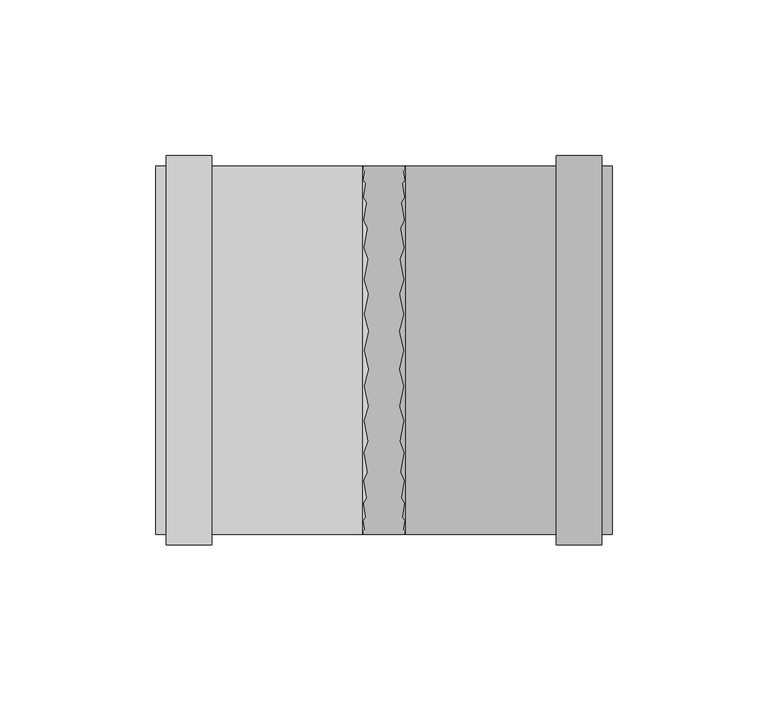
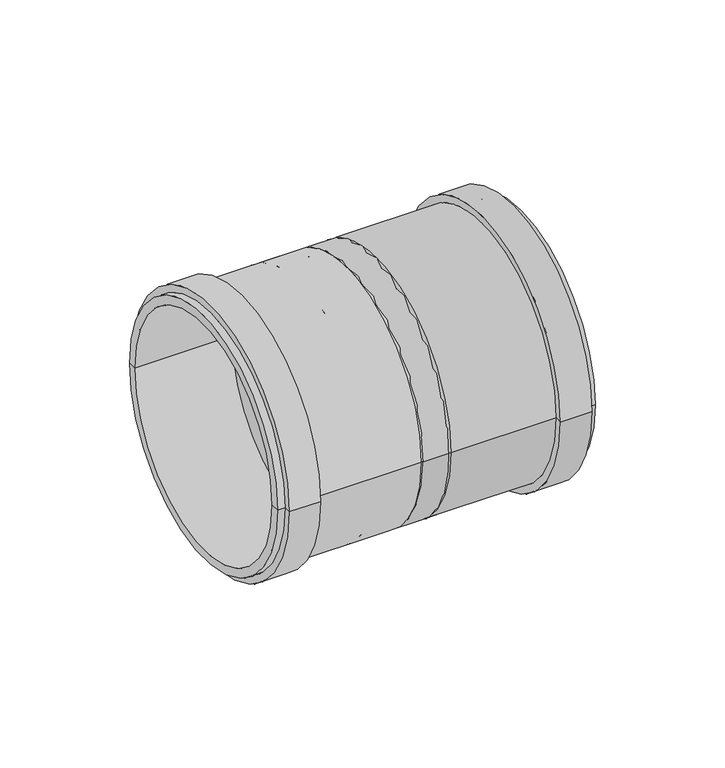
"""IFC4 building model written with IfcOpenShell, lengths in millimetres: pipe fitting geometry, pf_HTU : pf_HTU."""

from ifc_helpers import new_model, si_unit, point, frame, origin, origin_2d, place, context, project, spatial, polyline, circle_curve, trimmed, segment, composite_curve, outline, extrude, source, transform, mapped, element, save
from ifc_brep_helpers import plane_surface, cylinder_surface, revolved_surface, advanced_brep


def pipe_fitting_23628242(model_context):
    return source(origin(), model_context, "Body", "SolidModel", [
        advanced_brep(
        [(6.5, -55.0, 0.0), (6.5, 55.0, 0.0), (16.0, 59.1, 0.0), (16.0, -59.1, 0.0), (6.5, 0.0, 0.0), (82.5, -59.1, 0.0), (82.5, 59.1, 0.0), (82.5, 55.0, 0.0), (82.5, -55.0, 0.0), (79.1, -59.1, 0.0), (79.1, 59.1, 0.0), (79.1, -62.5, 0.0), (79.1, 62.5, 0.0), (64.6, -62.5, 0.0), (64.6, 62.5, 0.0), (64.6, -59.1, 0.0), (64.6, 59.1, 0.0), (16.0, -55.0, 0.0), (16.0, 55.0, 0.0), (16.0, 0.0, 0.0)],
        [
            (0, 1, circle_curve(frame((6.5, 0.0, 0.0), z_axis=(1.0, 0.0, 0.0), x_axis=(0.0, 1.0, 0.0)), 55.0)),
            (1, 2),
            (2, 3, circle_curve(frame((16.0, 0.0, 0.0), z_axis=(-1.0, 0.0, 0.0), x_axis=(0.0, 1.0, 0.0)), 59.1)),
            (3, 0),
            (1, 0, circle_curve(frame((6.5, 0.0, 0.0), z_axis=(1.0, 0.0, 0.0), x_axis=(0.0, 1.0, 0.0)), 55.0)),
            (3, 2, circle_curve(frame((16.0, 0.0, 0.0), z_axis=(-1.0, 0.0, 0.0), x_axis=(0.0, 1.0, 0.0)), 59.1)),
            (4, 1),
            (0, 4),
            (5, 6, circle_curve(frame((82.5, 0.0, 0.0), z_axis=(1.0, 0.0, 0.0), x_axis=(0.0, 1.0, 0.0)), 59.1)),
            (6, 7),
            (7, 8, circle_curve(frame((82.5, 0.0, 0.0), z_axis=(-1.0, 0.0, 0.0), x_axis=(0.0, 1.0, 0.0)), 55.0)),
            (8, 5),
            (6, 5, circle_curve(frame((82.5, 0.0, 0.0), z_axis=(1.0, 0.0, 0.0), x_axis=(0.0, 1.0, 0.0)), 59.1)),
            (8, 7, circle_curve(frame((82.5, 0.0, 0.0), z_axis=(-1.0, 0.0, 0.0), x_axis=(0.0, 1.0, 0.0)), 55.0)),
            (9, 10, circle_curve(frame((79.1, 0.0, 0.0), z_axis=(1.0, 0.0, 0.0), x_axis=(0.0, 1.0, 0.0)), 59.1)),
            (10, 6),
            (5, 9),
            (10, 9, circle_curve(frame((79.1, 0.0, 0.0), z_axis=(1.0, 0.0, 0.0), x_axis=(0.0, 1.0, 0.0)), 59.1)),
            (11, 12, circle_curve(frame((79.1, 0.0, 0.0), z_axis=(1.0, 0.0, 0.0), x_axis=(0.0, 1.0, 0.0)), 62.5)),
            (12, 10),
            (9, 11),
            (12, 11, circle_curve(frame((79.1, 0.0, 0.0), z_axis=(1.0, 0.0, 0.0), x_axis=(0.0, 1.0, 0.0)), 62.5)),
            (13, 14, circle_curve(frame((64.6, 0.0, 0.0), z_axis=(1.0, 0.0, 0.0), x_axis=(0.0, 1.0, 0.0)), 62.5)),
            (14, 12),
            (11, 13),
            (14, 13, circle_curve(frame((64.6, 0.0, 0.0), z_axis=(1.0, 0.0, 0.0), x_axis=(0.0, 1.0, 0.0)), 62.5)),
            (15, 16, circle_curve(frame((64.6, 0.0, 0.0), z_axis=(1.0, 0.0, 0.0), x_axis=(0.0, 1.0, 0.0)), 59.1)),
            (16, 14),
            (13, 15),
            (16, 15, circle_curve(frame((64.6, 0.0, 0.0), z_axis=(1.0, 0.0, 0.0), x_axis=(0.0, 1.0, 0.0)), 59.1)),
            (2, 16),
            (15, 3),
            (17, 18, circle_curve(frame((16.0, 0.0, 0.0), z_axis=(1.0, 0.0, 0.0), x_axis=(0.0, 1.0, 0.0)), 55.0)),
            (18, 19),
            (19, 17),
            (18, 17, circle_curve(frame((16.0, 0.0, 0.0), z_axis=(1.0, 0.0, 0.0), x_axis=(0.0, 1.0, 0.0)), 55.0)),
            (7, 18),
            (17, 8),
        ],
        [
            revolved_surface(polyline([(16.0, 59.1, 0.0), (6.5, 55.0, 0.0)]), (6.5, 0.0, 0.0), (-1.0, 0.0, 0.0)),
            plane_surface(frame((6.5, 0.0, 0.0), z_axis=(-1.0, 0.0, 0.0), x_axis=(0.0, 1.0, 0.0))),
            plane_surface(frame((82.5, 0.0, 0.0), z_axis=(1.0, 0.0, 0.0), x_axis=(0.0, 1.0, 0.0))),
            cylinder_surface(frame((6.5, 0.0, 0.0), z_axis=(-1.0, 0.0, 0.0), x_axis=(0.0, 1.0, 0.0)), 59.1),
            plane_surface(frame((79.1, 0.0, 0.0), z_axis=(1.0, 0.0, 0.0), x_axis=(0.0, 1.0, 0.0))),
            cylinder_surface(frame((6.5, 0.0, 0.0), z_axis=(-1.0, 0.0, 0.0), x_axis=(0.0, 1.0, 0.0)), 62.5),
            plane_surface(frame((64.6, 0.0, 0.0), z_axis=(-1.0, 0.0, 0.0), x_axis=(0.0, 1.0, 0.0))),
            plane_surface(frame((16.0, 0.0, 0.0), z_axis=(1.0, 0.0, 0.0), x_axis=(0.0, 1.0, 0.0))),
            revolved_surface(polyline([(16.0, 55.0, 0.0), (82.5, 55.0, 0.0)]), (6.5, 0.0, 0.0), (-1.0, 0.0, 0.0)),
        ],
        [
            (0, [[1, 2, 3, 4]]),
            (0, [[5, -4, 6, -2]]),
            (1, [[7, -1, 8]]),
            (1, [[-8, -5, -7]]),
            (2, [[9, 10, 11, 12]]),
            (2, [[13, -12, 14, -10]]),
            (3, [[15, 16, -9, 17]]),
            (3, [[18, -17, -13, -16]]),
            (4, [[19, 20, -15, 21]]),
            (4, [[22, -21, -18, -20]]),
            (5, [[23, 24, -19, 25]]),
            (5, [[26, -25, -22, -24]]),
            (6, [[27, 28, -23, 29]]),
            (6, [[30, -29, -26, -28]]),
            (3, [[-3, 31, -27, 32]]),
            (3, [[-6, -32, -30, -31]]),
            (7, [[33, 34, 35]]),
            (7, [[36, -35, -34]]),
            (8, [[-11, 37, -33, 38]]),
            (8, [[-14, -38, -36, -37]]),
        ],
    ),
        advanced_brep(
        [(12.0, 55.0, 0.0), (12.0, -55.0, 0.0), (2.5, -59.1, 0.0), (2.5, 59.1, 0.0), (12.0, 0.0, 0.0), (-64.0, 59.1, 0.0), (-64.0, -59.1, 0.0), (-64.0, -55.0, 0.0), (-64.0, 55.0, 0.0), (-60.6, 59.1, 0.0), (-60.6, -59.1, 0.0), (-60.6, 62.5, 0.0), (-60.6, -62.5, 0.0), (-46.1, 62.5, 0.0), (-46.1, -62.5, 0.0), (-46.1, 59.1, 0.0), (-46.1, -59.1, 0.0), (2.5, 55.0, 0.0), (2.5, -55.0, 0.0), (2.5, 0.0, 0.0)],
        [
            (0, 1, circle_curve(frame((12.0, 0.0, 0.0), z_axis=(-1.0, 0.0, 0.0), x_axis=(0.0, -1.0, 0.0)), 55.0)),
            (1, 2),
            (2, 3, circle_curve(frame((2.5, 0.0, 0.0), z_axis=(1.0, 0.0, 0.0), x_axis=(0.0, -1.0, 0.0)), 59.1)),
            (3, 0),
            (1, 0, circle_curve(frame((12.0, 0.0, 0.0), z_axis=(-1.0, 0.0, 0.0), x_axis=(0.0, -1.0, 0.0)), 55.0)),
            (3, 2, circle_curve(frame((2.5, 0.0, 0.0), z_axis=(1.0, 0.0, 0.0), x_axis=(0.0, -1.0, 0.0)), 59.1)),
            (4, 1),
            (0, 4),
            (5, 6, circle_curve(frame((-64.0, 0.0, 0.0), z_axis=(-1.0, 0.0, 0.0), x_axis=(0.0, -1.0, 0.0)), 59.1)),
            (6, 7),
            (7, 8, circle_curve(frame((-64.0, 0.0, 0.0), z_axis=(1.0, 0.0, 0.0), x_axis=(0.0, -1.0, 0.0)), 55.0)),
            (8, 5),
            (6, 5, circle_curve(frame((-64.0, 0.0, 0.0), z_axis=(-1.0, 0.0, 0.0), x_axis=(0.0, -1.0, 0.0)), 59.1)),
            (8, 7, circle_curve(frame((-64.0, 0.0, 0.0), z_axis=(1.0, 0.0, 0.0), x_axis=(0.0, -1.0, 0.0)), 55.0)),
            (9, 10, circle_curve(frame((-60.6, 0.0, 0.0), z_axis=(-1.0, 0.0, 0.0), x_axis=(0.0, -1.0, 0.0)), 59.1)),
            (10, 6),
            (5, 9),
            (10, 9, circle_curve(frame((-60.6, 0.0, 0.0), z_axis=(-1.0, 0.0, 0.0), x_axis=(0.0, -1.0, 0.0)), 59.1)),
            (11, 12, circle_curve(frame((-60.6, 0.0, 0.0), z_axis=(-1.0, 0.0, 0.0), x_axis=(0.0, -1.0, 0.0)), 62.5)),
            (12, 10),
            (9, 11),
            (12, 11, circle_curve(frame((-60.6, 0.0, 0.0), z_axis=(-1.0, 0.0, 0.0), x_axis=(0.0, -1.0, 0.0)), 62.5)),
            (13, 14, circle_curve(frame((-46.1, 0.0, 0.0), z_axis=(-1.0, 0.0, 0.0), x_axis=(0.0, -1.0, 0.0)), 62.5)),
            (14, 12),
            (11, 13),
            (14, 13, circle_curve(frame((-46.1, 0.0, 0.0), z_axis=(-1.0, 0.0, 0.0), x_axis=(0.0, -1.0, 0.0)), 62.5)),
            (15, 16, circle_curve(frame((-46.1, 0.0, 0.0), z_axis=(-1.0, 0.0, 0.0), x_axis=(0.0, -1.0, 0.0)), 59.1)),
            (16, 14),
            (13, 15),
            (16, 15, circle_curve(frame((-46.1, 0.0, 0.0), z_axis=(-1.0, 0.0, 0.0), x_axis=(0.0, -1.0, 0.0)), 59.1)),
            (2, 16),
            (15, 3),
            (17, 18, circle_curve(frame((2.5, 0.0, 0.0), z_axis=(-1.0, 0.0, 0.0), x_axis=(0.0, -1.0, 0.0)), 55.0)),
            (18, 19),
            (19, 17),
            (18, 17, circle_curve(frame((2.5, 0.0, 0.0), z_axis=(-1.0, 0.0, 0.0), x_axis=(0.0, -1.0, 0.0)), 55.0)),
            (7, 18),
            (17, 8),
        ],
        [
            revolved_surface(polyline([(2.5, -59.1, 0.0), (12.0, -55.0, 0.0)]), (12.0, 0.0, 0.0), (1.0, 0.0, 0.0)),
            plane_surface(frame((12.0, 0.0, 0.0), z_axis=(1.0, 0.0, 0.0), x_axis=(0.0, -1.0, 0.0))),
            plane_surface(frame((-64.0, 0.0, 0.0), z_axis=(-1.0, 0.0, 0.0), x_axis=(0.0, -1.0, 0.0))),
            cylinder_surface(frame((12.0, 0.0, 0.0), z_axis=(1.0, 0.0, 0.0), x_axis=(0.0, -1.0, 0.0)), 59.1),
            plane_surface(frame((-60.6, 0.0, 0.0), z_axis=(-1.0, 0.0, 0.0), x_axis=(0.0, -1.0, 0.0))),
            cylinder_surface(frame((12.0, 0.0, 0.0), z_axis=(1.0, 0.0, 0.0), x_axis=(0.0, -1.0, 0.0)), 62.5),
            plane_surface(frame((-46.1, 0.0, 0.0), z_axis=(1.0, 0.0, 0.0), x_axis=(0.0, -1.0, 0.0))),
            plane_surface(frame((2.5, 0.0, 0.0), z_axis=(-1.0, 0.0, 0.0), x_axis=(0.0, -1.0, 0.0))),
            revolved_surface(polyline([(2.5, -55.0, 0.0), (-64.0, -55.0, 0.0)]), (12.0, 0.0, 0.0), (1.0, 0.0, 0.0)),
        ],
        [
            (0, [[1, 2, 3, 4]]),
            (0, [[5, -4, 6, -2]]),
            (1, [[7, -1, 8]]),
            (1, [[-8, -5, -7]]),
            (2, [[9, 10, 11, 12]]),
            (2, [[13, -12, 14, -10]]),
            (3, [[15, 16, -9, 17]]),
            (3, [[18, -17, -13, -16]]),
            (4, [[19, 20, -15, 21]]),
            (4, [[22, -21, -18, -20]]),
            (5, [[23, 24, -19, 25]]),
            (5, [[26, -25, -22, -24]]),
            (6, [[27, 28, -23, 29]]),
            (6, [[30, -29, -26, -28]]),
            (3, [[-3, 31, -27, 32]]),
            (3, [[-6, -32, -30, -31]]),
            (7, [[33, 34, 35]]),
            (7, [[36, -35, -34]]),
            (8, [[-11, 37, -33, 38]]),
            (8, [[-14, -38, -36, -37]]),
        ],
    ),
        extrude(outline(composite_curve([segment(trimmed(circle_curve(origin_2d(), 59.1), [point((-59.1, 0.0))], [point((59.1, 0.0))], False, "CARTESIAN"), True, "CONTINUOUS"), segment(trimmed(circle_curve(origin_2d(), 59.1), [point((59.1, 0.0))], [point((-59.1, 0.0))], False, "CARTESIAN"), True, "CONTINUOUS")], self_intersect=False)), frame((-19.2389226, 0.0, 0.0), z_axis=(1.0, 0.0, 0.0), x_axis=(0.0, 1.0, 0.0)), (0.0, 0.0, 1.0), 38.4778452),
    ])


if __name__ == "__main__":
    model = new_model("IFC4")
    model_context = context("Model", 3, world=origin())
    ifc_project = project(units=[si_unit("LENGTHUNIT", "METRE", prefix="MILLI")], contexts=[model_context])
    site = spatial("IfcSite", under=ifc_project)
    building = spatial("IfcBuilding", under=site)
    placement = place(None, origin())
    pipe_fitting_shape = pipe_fitting_23628242(model_context)
    element("IfcPipeFitting", 1, ObjectType="pf_HTU : pf_HTU", at=placement, inside=building, context=model_context, shape_type="MappedRepresentation", body=[
        mapped(pipe_fitting_shape, transform((0.0, 0.0, 0.0), x_axis=(1.0, 0.0, 0.0), y_axis=(0.0, 1.0, 0.0), z_axis=(0.0, 0.0, 1.0))),
    ])
    save(model, "model.ifc")
